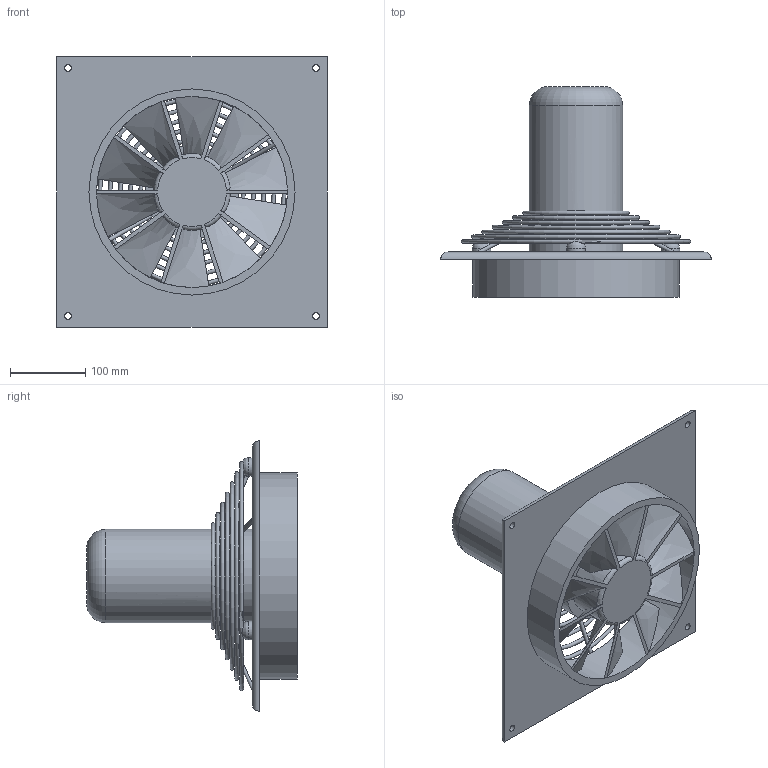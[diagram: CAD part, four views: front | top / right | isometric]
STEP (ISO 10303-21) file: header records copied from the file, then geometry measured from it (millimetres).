
FILE_DESCRIPTION(/* description */ (''),/* implementation_level */ '2;1');
FILE_NAME(/* name */ 'Z:\Output\HQD_250-4-2-01128-020.stp',/* time_stamp */ '2020-05-11T13:42:49+02:00',/* author */ ('pareshmistry'),/* organization */ (''),/* preprocessor_version */ 'ST-DEVELOPER v17.2',/* originating_system */ 'Autodesk Inventor 2019',/* authorisation */ '');
FILE_SCHEMA (('AUTOMOTIVE_DESIGN { 1 0 10303 214 3 1 1 }'));
Length unit declared in the file: millimetre
Products named in the file (1): HQW EC 450
Bounding box: 360 x 280 x 360 mm (x, y, z)
Volume: 4544747.9 mm3; surface area: 554044.8 mm2
Topology: 7 solids, 7 shells, 96 faces, 329 edges, 214 vertices
Faces by surface type: bspline 33, cylinder 23, plane 22, torus 18
Full cylindrical faces by diameter (mm): 5 x6, 9 x4, 25 x3, 102 x1, 124 x1, 254 x1, 274 x1
Entity records: 5434 total; most frequent: CARTESIAN_POINT 2591, ORIENTED_EDGE 698, DIRECTION 463, EDGE_CURVE 349, VERTEX_POINT 214, AXIS2_PLACEMENT_3D 186, B_SPLINE_CURVE_WITH_KNOTS 133, EDGE_LOOP 122
